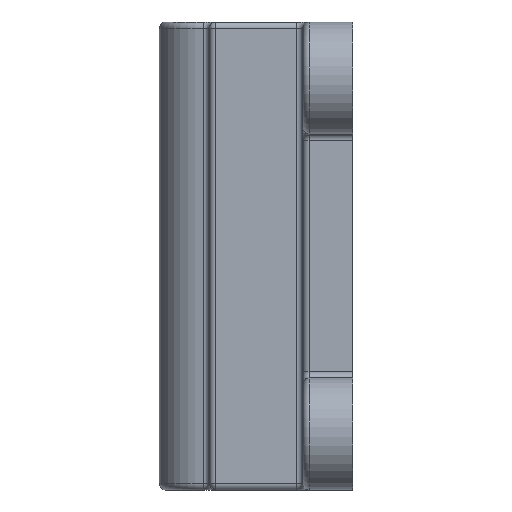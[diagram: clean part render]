
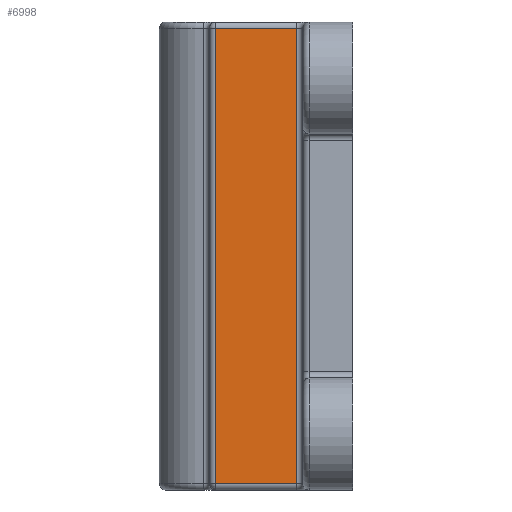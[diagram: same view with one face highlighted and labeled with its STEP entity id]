
A CAD part, left-side view. The second image highlights one B-rep face of the part: STEP entity #6998.
In plain terms, the highlighted planar face has unit normal (-1, 0, 0).
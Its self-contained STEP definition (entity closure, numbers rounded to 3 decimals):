
#3775=ORIENTED_EDGE('',*,*,#4870,.T.);
#3776=ORIENTED_EDGE('',*,*,#4871,.T.);
#3777=ORIENTED_EDGE('',*,*,#4872,.T.);
#3778=ORIENTED_EDGE('',*,*,#4873,.T.);
#4870=EDGE_CURVE('',#5414,#5415,#5699,.T.);
#4871=EDGE_CURVE('',#5415,#5416,#5700,.F.);
#4872=EDGE_CURVE('',#5416,#5417,#5701,.F.);
#4873=EDGE_CURVE('',#5417,#5414,#5702,.T.);
#5414=VERTEX_POINT('',#10621);
#5415=VERTEX_POINT('',#10622);
#5416=VERTEX_POINT('',#10624);
#5417=VERTEX_POINT('',#10626);
#5699=LINE('',#10620,#5953);
#5700=LINE('',#10623,#5954);
#5701=LINE('',#10625,#5955);
#5702=LINE('',#10627,#5956);
#5953=VECTOR('',#8646,1000.);
#5954=VECTOR('',#8647,1000.);
#5955=VECTOR('',#8648,1000.);
#5956=VECTOR('',#8649,1000.);
#6127=EDGE_LOOP('',(#3775,#3776,#3777,#3778));
#6498=FACE_BOUND('',#6127,.T.);
#6847=PLANE('',#7605);
#6998=ADVANCED_FACE('',(#6498),#6847,.T.);
#7605=AXIS2_PLACEMENT_3D('',#10619,#8644,#8645);
#8644=DIRECTION('',(-1.,0.,0.));
#8645=DIRECTION('',(0.,0.,1.));
#8646=DIRECTION('',(0.,0.,-1.));
#8647=DIRECTION('',(0.,1.,0.));
#8648=DIRECTION('',(0.,0.,-1.));
#8649=DIRECTION('',(0.,1.,0.));
#10619=CARTESIAN_POINT('',(16.5,8.,75.));
#10620=CARTESIAN_POINT('',(16.5,22.,75.));
#10621=CARTESIAN_POINT('',(16.5,22.,74.));
#10622=CARTESIAN_POINT('',(16.5,22.,1.));
#10623=CARTESIAN_POINT('',(16.5,8.,1.));
#10624=CARTESIAN_POINT('',(16.5,9.,1.));
#10625=CARTESIAN_POINT('',(16.5,9.,75.));
#10626=CARTESIAN_POINT('',(16.5,9.,74.));
#10627=CARTESIAN_POINT('',(16.5,23.,74.));
